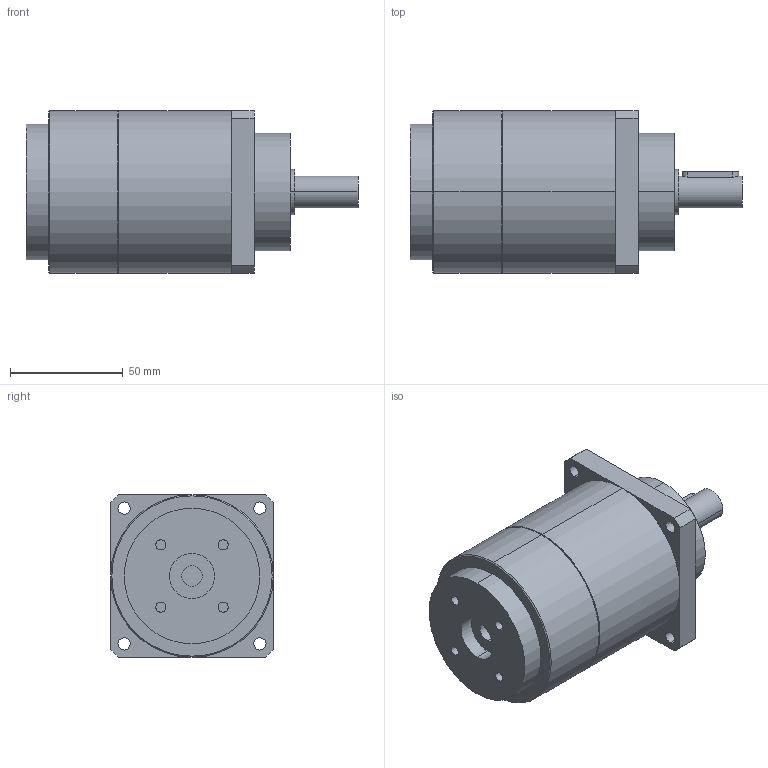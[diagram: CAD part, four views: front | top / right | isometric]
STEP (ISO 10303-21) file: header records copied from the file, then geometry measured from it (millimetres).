
FILE_DESCRIPTION(('CoCreate Modeling STEP Export'),'2;1');
FILE_NAME('GPT75_ig-9-12-16-20-25-28-35-40-50-70-100_14_B5T_9_P14.stp','2014-08-27T13:44:00',(''),(''),'CoCreate Modeling STEP processor for AP214 (Solid Model)','CoCreate Modeling 16.00C 25-Feb-2009 (C) Parametric Technology GmbH','');
FILE_SCHEMA(('AUTOMOTIVE_DESIGN { 1 0 10303 214 1 1 1 1 }'));
Length unit declared in the file: millimetre
Products named in the file (2): GPT75_ig-9-12-16-20-25-28-35-40-50-70-100_14_B5T_9_P14
Assembly tree (1 placements, depth 2):
  GPT75_ig-9-12-16-20-25-28-35-40-50-70-100_14_B5T_9_P14
    GPT75_ig-9-12-16-20-25-28-35-40-50-70-100_14_B5T_9_P14
Bounding box: 147 x 72 x 72 mm (x, y, z)
Volume: 442888 mm3; surface area: 40087.1 mm2
Topology: 1 solids, 1 shells, 69 faces, 165 edges, 110 vertices
Faces by surface type: cylinder 40, plane 25, cone 4
Entity records: 2146 total; most frequent: CARTESIAN_POINT 661, ORIENTED_EDGE 330, DIRECTION 260, EDGE_CURVE 165, VERTEX_POINT 110, AXIS2_PLACEMENT_3D 97, EDGE_LOOP 89, FACE_OUTER_BOUND 69
